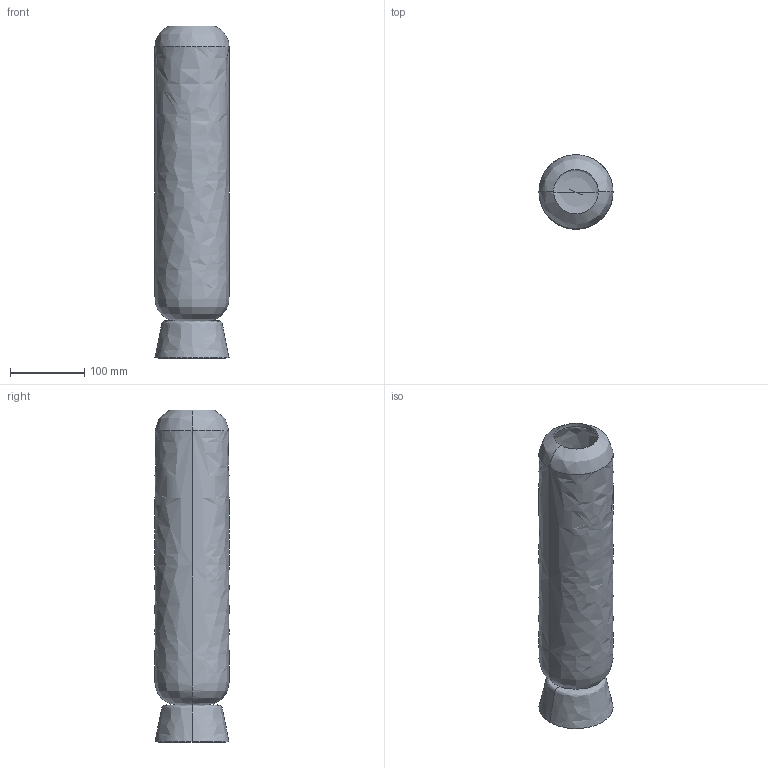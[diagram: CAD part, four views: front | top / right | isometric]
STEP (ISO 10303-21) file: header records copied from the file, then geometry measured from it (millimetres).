
FILE_DESCRIPTION(/* description */ (''),/* implementation_level */ '2;1');
FILE_NAME(/* name */ 'Kabin Vase Tall',/* time_stamp */ '2020-03-03T15:00:02+01:00',/* author */ (''),/* organization */ (''),/* preprocessor_version */ 'ST-DEVELOPER v15',/* originating_system */ '',/* authorisation */ '');
FILE_SCHEMA (('AUTOMOTIVE_DESIGN'));
Length unit declared in the file: millimetre
Products named in the file (1): Document
Bounding box: 100 x 100 x 448.28 mm (x, y, z)
Volume: 738343 mm3; surface area: 280451.4 mm2
Topology: 2 solids, 2 shells, 16 faces, 36 edges, 16 vertices
Faces by surface type: bspline 16
Entity records: 670 total; most frequent: CARTESIAN_POINT 486, ORIENTED_EDGE 56, EDGE_CURVE 28, ADVANCED_FACE 16, FACE_OUTER_BOUND 16, EDGE_LOOP 16, VERTEX_POINT 16, B_SPLINE_CURVE_WITH_KNOTS 8
